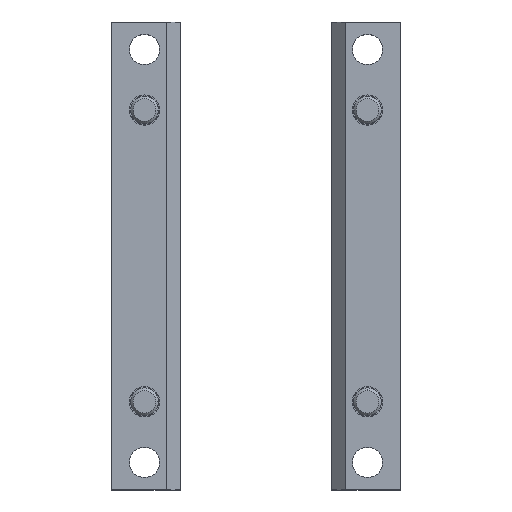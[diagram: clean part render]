
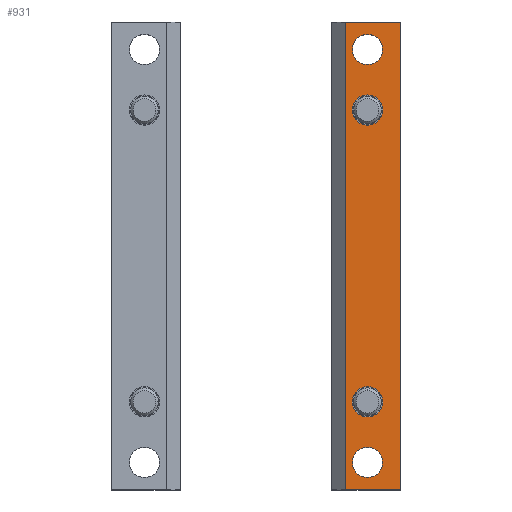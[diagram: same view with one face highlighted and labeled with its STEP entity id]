
A CAD part, top view. The second image highlights one B-rep face of the part: STEP entity #931.
In plain terms, the highlighted planar face has unit normal (0, 0, 1).
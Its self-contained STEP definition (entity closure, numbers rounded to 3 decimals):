
#27 = AXIS2_PLACEMENT_3D ( 'NONE', #3235, #592, #2940 ) ;
#35 = ORIENTED_EDGE ( 'NONE', *, *, #3506, .T. ) ;
#79 = EDGE_CURVE ( 'NONE', #2430, #1794, #1198, .T. ) ;
#111 = DIRECTION ( 'NONE',  ( -1., 0., 0. ) ) ;
#131 = CIRCLE ( 'NONE', #2109, 5.5 ) ;
#235 = FACE_BOUND ( 'NONE', #3084, .T. ) ;
#255 = CARTESIAN_POINT ( 'NONE',  ( 40., 11., -32. ) ) ;
#259 = VERTEX_POINT ( 'NONE', #3443 ) ;
#275 = CARTESIAN_POINT ( 'NONE',  ( 52.5, -74., -32. ) ) ;
#286 = CARTESIAN_POINT ( 'NONE',  ( 40.5, 91.5, -32. ) ) ;
#309 = AXIS2_PLACEMENT_3D ( 'NONE', #2126, #634, #3323 ) ;
#329 = CARTESIAN_POINT ( 'NONE',  ( 32.5, -74., -32. ) ) ;
#338 = ORIENTED_EDGE ( 'NONE', *, *, #2851, .T. ) ;
#361 = CARTESIAN_POINT ( 'NONE',  ( 40.5, -58.5, -32. ) ) ;
#366 = AXIS2_PLACEMENT_3D ( 'NONE', #2805, #2249, #833 ) ;
#391 = DIRECTION ( 'NONE',  ( 0., 0., -1. ) ) ;
#423 = CIRCLE ( 'NONE', #309, 5.5 ) ;
#565 = CARTESIAN_POINT ( 'NONE',  ( 40.5, 86., -32. ) ) ;
#592 = DIRECTION ( 'NONE',  ( 0., 0., -1. ) ) ;
#617 = EDGE_CURVE ( 'NONE', #3421, #2451, #3023, .T. ) ;
#634 = DIRECTION ( 'NONE',  ( 0., 0., -1. ) ) ;
#701 = CARTESIAN_POINT ( 'NONE',  ( 40.5, 86., -32. ) ) ;
#770 = DIRECTION ( 'NONE',  ( 0., 0., -1. ) ) ;
#780 = ORIENTED_EDGE ( 'NONE', *, *, #2502, .T. ) ;
#785 = DIRECTION ( 'NONE',  ( 0., 0., -1. ) ) ;
#797 = DIRECTION ( 'NONE',  ( 0., 0., -1. ) ) ;
#823 = DIRECTION ( 'NONE',  ( 0., 1., 0. ) ) ;
#833 = DIRECTION ( 'NONE',  ( 0., 1., 0. ) ) ;
#843 = FACE_BOUND ( 'NONE', #3104, .T. ) ;
#845 = VERTEX_POINT ( 'NONE', #2903 ) ;
#909 = EDGE_CURVE ( 'NONE', #1026, #259, #2542, .T. ) ;
#918 = DIRECTION ( 'NONE',  ( 0., 1., 0. ) ) ;
#931 = ADVANCED_FACE ( 'NONE', ( #235, #1699, #843, #3204, #2015 ), #2896, .F. ) ;
#945 = ORIENTED_EDGE ( 'NONE', *, *, #909, .T. ) ;
#966 = VERTEX_POINT ( 'NONE', #1707 ) ;
#1026 = VERTEX_POINT ( 'NONE', #286 ) ;
#1065 = CARTESIAN_POINT ( 'NONE',  ( 52.5, -74., -32. ) ) ;
#1123 = AXIS2_PLACEMENT_3D ( 'NONE', #1410, #770, #3668 ) ;
#1167 = AXIS2_PLACEMENT_3D ( 'NONE', #701, #3681, #3086 ) ;
#1198 = CIRCLE ( 'NONE', #27, 5.5 ) ;
#1246 = CARTESIAN_POINT ( 'NONE',  ( 40.5, -36.5, -32. ) ) ;
#1293 = VECTOR ( 'NONE', #2702, 1000. ) ;
#1375 = AXIS2_PLACEMENT_3D ( 'NONE', #2743, #391, #1584 ) ;
#1410 = CARTESIAN_POINT ( 'NONE',  ( 40.5, -42., -32. ) ) ;
#1444 = DIRECTION ( 'NONE',  ( 0., 0., -1. ) ) ;
#1457 = EDGE_CURVE ( 'NONE', #259, #1026, #2813, .T. ) ;
#1540 = CARTESIAN_POINT ( 'NONE',  ( 32.5, 53.5, -32. ) ) ;
#1584 = DIRECTION ( 'NONE',  ( 0., 1., 0. ) ) ;
#1687 = CARTESIAN_POINT ( 'NONE',  ( 40.5, 58.5, -32. ) ) ;
#1699 = FACE_BOUND ( 'NONE', #2933, .T. ) ;
#1707 = CARTESIAN_POINT ( 'NONE',  ( 32.5, 96., -32. ) ) ;
#1748 = VECTOR ( 'NONE', #111, 1000. ) ;
#1794 = VERTEX_POINT ( 'NONE', #1246 ) ;
#1816 = VERTEX_POINT ( 'NONE', #329 ) ;
#1846 = EDGE_CURVE ( 'NONE', #1816, #966, #2948, .T. ) ;
#1879 = VERTEX_POINT ( 'NONE', #3676 ) ;
#1925 = CARTESIAN_POINT ( 'NONE',  ( 40.5, 64., -32. ) ) ;
#1929 = ORIENTED_EDGE ( 'NONE', *, *, #2817, .T. ) ;
#2015 = FACE_OUTER_BOUND ( 'NONE', #3210, .T. ) ;
#2027 = VERTEX_POINT ( 'NONE', #1065 ) ;
#2052 = LINE ( 'NONE', #275, #3693 ) ;
#2075 = ORIENTED_EDGE ( 'NONE', *, *, #3428, .T. ) ;
#2095 = EDGE_LOOP ( 'NONE', ( #1929, #3004 ) ) ;
#2109 = AXIS2_PLACEMENT_3D ( 'NONE', #1925, #785, #2788 ) ;
#2126 = CARTESIAN_POINT ( 'NONE',  ( 40.5, -64., -32. ) ) ;
#2249 = DIRECTION ( 'NONE',  ( 0., 0., -1. ) ) ;
#2328 = DIRECTION ( 'NONE',  ( 0., 1., 0. ) ) ;
#2381 = CARTESIAN_POINT ( 'NONE',  ( 40.5, 69.5, -32. ) ) ;
#2413 = EDGE_CURVE ( 'NONE', #1816, #2027, #3325, .T. ) ;
#2430 = VERTEX_POINT ( 'NONE', #2823 ) ;
#2436 = LINE ( 'NONE', #2791, #1748 ) ;
#2451 = VERTEX_POINT ( 'NONE', #1687 ) ;
#2469 = CARTESIAN_POINT ( 'NONE',  ( 27.5, -74., -32. ) ) ;
#2502 = EDGE_CURVE ( 'NONE', #845, #3568, #2654, .T. ) ;
#2542 = CIRCLE ( 'NONE', #2849, 5.5 ) ;
#2654 = CIRCLE ( 'NONE', #366, 5.5 ) ;
#2692 = EDGE_CURVE ( 'NONE', #3568, #845, #423, .T. ) ;
#2702 = DIRECTION ( 'NONE',  ( 0., 1., 0. ) ) ;
#2713 = CIRCLE ( 'NONE', #1123, 5.5 ) ;
#2725 = AXIS2_PLACEMENT_3D ( 'NONE', #255, #1444, #2328 ) ;
#2743 = CARTESIAN_POINT ( 'NONE',  ( 40.5, 64., -32. ) ) ;
#2788 = DIRECTION ( 'NONE',  ( 0., 1., 0. ) ) ;
#2791 = CARTESIAN_POINT ( 'NONE',  ( 52.5, 96., -32. ) ) ;
#2805 = CARTESIAN_POINT ( 'NONE',  ( 40.5, -64., -32. ) ) ;
#2813 = CIRCLE ( 'NONE', #1167, 5.5 ) ;
#2817 = EDGE_CURVE ( 'NONE', #1794, #2430, #2713, .T. ) ;
#2823 = CARTESIAN_POINT ( 'NONE',  ( 40.5, -47.5, -32. ) ) ;
#2849 = AXIS2_PLACEMENT_3D ( 'NONE', #565, #797, #823 ) ;
#2851 = EDGE_CURVE ( 'NONE', #2451, #3421, #131, .T. ) ;
#2867 = ORIENTED_EDGE ( 'NONE', *, *, #2413, .T. ) ;
#2878 = ORIENTED_EDGE ( 'NONE', *, *, #1457, .T. ) ;
#2896 = PLANE ( 'NONE',  #2725 ) ;
#2903 = CARTESIAN_POINT ( 'NONE',  ( 40.5, -69.5, -32. ) ) ;
#2933 = EDGE_LOOP ( 'NONE', ( #3531, #780 ) ) ;
#2940 = DIRECTION ( 'NONE',  ( 0., 1., 0. ) ) ;
#2948 = LINE ( 'NONE', #1540, #1293 ) ;
#3004 = ORIENTED_EDGE ( 'NONE', *, *, #79, .T. ) ;
#3023 = CIRCLE ( 'NONE', #1375, 5.5 ) ;
#3084 = EDGE_LOOP ( 'NONE', ( #945, #2878 ) ) ;
#3086 = DIRECTION ( 'NONE',  ( 0., 1., 0. ) ) ;
#3104 = EDGE_LOOP ( 'NONE', ( #3245, #338 ) ) ;
#3204 = FACE_BOUND ( 'NONE', #2095, .T. ) ;
#3210 = EDGE_LOOP ( 'NONE', ( #3546, #2867, #2075, #35 ) ) ;
#3235 = CARTESIAN_POINT ( 'NONE',  ( 40.5, -42., -32. ) ) ;
#3245 = ORIENTED_EDGE ( 'NONE', *, *, #617, .T. ) ;
#3323 = DIRECTION ( 'NONE',  ( 0., 1., 0. ) ) ;
#3325 = LINE ( 'NONE', #2469, #3756 ) ;
#3421 = VERTEX_POINT ( 'NONE', #2381 ) ;
#3428 = EDGE_CURVE ( 'NONE', #2027, #1879, #2052, .T. ) ;
#3443 = CARTESIAN_POINT ( 'NONE',  ( 40.5, 80.5, -32. ) ) ;
#3506 = EDGE_CURVE ( 'NONE', #1879, #966, #2436, .T. ) ;
#3531 = ORIENTED_EDGE ( 'NONE', *, *, #2692, .T. ) ;
#3546 = ORIENTED_EDGE ( 'NONE', *, *, #1846, .F. ) ;
#3568 = VERTEX_POINT ( 'NONE', #361 ) ;
#3637 = DIRECTION ( 'NONE',  ( 1., 0., 0. ) ) ;
#3668 = DIRECTION ( 'NONE',  ( 0., 1., 0. ) ) ;
#3676 = CARTESIAN_POINT ( 'NONE',  ( 52.5, 96., -32. ) ) ;
#3681 = DIRECTION ( 'NONE',  ( 0., 0., -1. ) ) ;
#3693 = VECTOR ( 'NONE', #918, 1000. ) ;
#3756 = VECTOR ( 'NONE', #3637, 1000. ) ;
